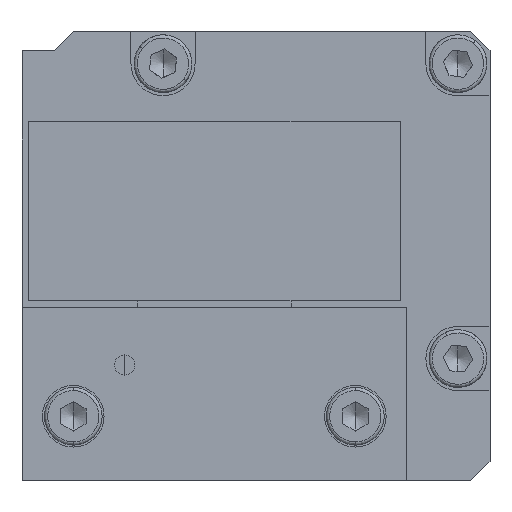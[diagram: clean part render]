
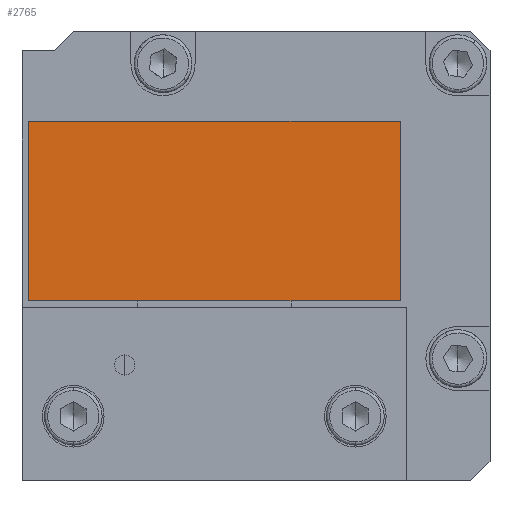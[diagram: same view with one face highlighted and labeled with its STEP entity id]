
A CAD part, left-side view. The second image highlights one B-rep face of the part: STEP entity #2765.
In plain terms, the highlighted planar face has unit normal (-1, 0, 0).
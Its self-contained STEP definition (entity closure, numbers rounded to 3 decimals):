
#2765 = ADVANCED_FACE ( 'NONE', ( #21526 ), #21525, .T. ) ;
#2766 = EDGE_LOOP ( 'NONE', ( #2767, #2771, #2774, #2831 ) ) ;
#2767 = ORIENTED_EDGE ( 'NONE', *, *, #2768, .T. ) ;
#2768 = EDGE_CURVE ( 'NONE', #2769, #2770, #21520, .T. ) ;
#2769 = VERTEX_POINT ( 'NONE', #21516 ) ;
#2770 = VERTEX_POINT ( 'NONE', #21515 ) ;
#2771 = ORIENTED_EDGE ( 'NONE', *, *, #2772, .F. ) ;
#2772 = EDGE_CURVE ( 'NONE', #2773, #2770, #21573, .T. ) ;
#2773 = VERTEX_POINT ( 'NONE', #21569 ) ;
#2774 = ORIENTED_EDGE ( 'NONE', *, *, #2775, .F. ) ;
#2775 = EDGE_CURVE ( 'NONE', #2776, #2773, #21568, .T. ) ;
#2776 = VERTEX_POINT ( 'NONE', #21564 ) ;
#2831 = ORIENTED_EDGE ( 'NONE', *, *, #2832, .F. ) ;
#2832 = EDGE_CURVE ( 'NONE', #2769, #2776, #21661, .T. ) ;
#21515 = CARTESIAN_POINT ( 'NONE',  ( -5.543, 29.5, 28. ) ) ;
#21516 = CARTESIAN_POINT ( 'NONE',  ( -5.543, 0.5, 28. ) ) ;
#21517 = DIRECTION ( 'NONE',  ( 0., 1., 0. ) ) ;
#21518 = VECTOR ( 'NONE', #21517, 1000. ) ;
#21519 = CARTESIAN_POINT ( 'NONE',  ( -5.543, 15., 28. ) ) ;
#21520 = LINE ( 'NONE', #21519, #21518 ) ;
#21521 = DIRECTION ( 'NONE',  ( 0., 0., 1. ) ) ;
#21522 = DIRECTION ( 'NONE',  ( -1., 0., 0. ) ) ;
#21523 = CARTESIAN_POINT ( 'NONE',  ( -5.543, 29.5, 28. ) ) ;
#21524 = AXIS2_PLACEMENT_3D ( 'NONE', #21523, #21522, #21521 ) ;
#21525 = PLANE ( 'NONE',  #21524 ) ;
#21526 = FACE_OUTER_BOUND ( 'NONE', #2766, .T. ) ;
#21564 = CARTESIAN_POINT ( 'NONE',  ( -5.543, 0.5, 14. ) ) ;
#21565 = DIRECTION ( 'NONE',  ( 0., 1., 0. ) ) ;
#21566 = VECTOR ( 'NONE', #21565, 1000. ) ;
#21567 = CARTESIAN_POINT ( 'NONE',  ( -5.543, 15., 14. ) ) ;
#21568 = LINE ( 'NONE', #21567, #21566 ) ;
#21569 = CARTESIAN_POINT ( 'NONE',  ( -5.543, 29.5, 14. ) ) ;
#21570 = DIRECTION ( 'NONE',  ( 0., 0., 1. ) ) ;
#21571 = VECTOR ( 'NONE', #21570, 1000. ) ;
#21572 = CARTESIAN_POINT ( 'NONE',  ( -5.543, 29.5, 28. ) ) ;
#21573 = LINE ( 'NONE', #21572, #21571 ) ;
#21653 = DIRECTION ( 'NONE',  ( 0., 0., -1. ) ) ;
#21654 = VECTOR ( 'NONE', #21653, 1000. ) ;
#21655 = CARTESIAN_POINT ( 'NONE',  ( -5.543, 0.5, 28. ) ) ;
#21661 = LINE ( 'NONE', #21655, #21654 ) ;
